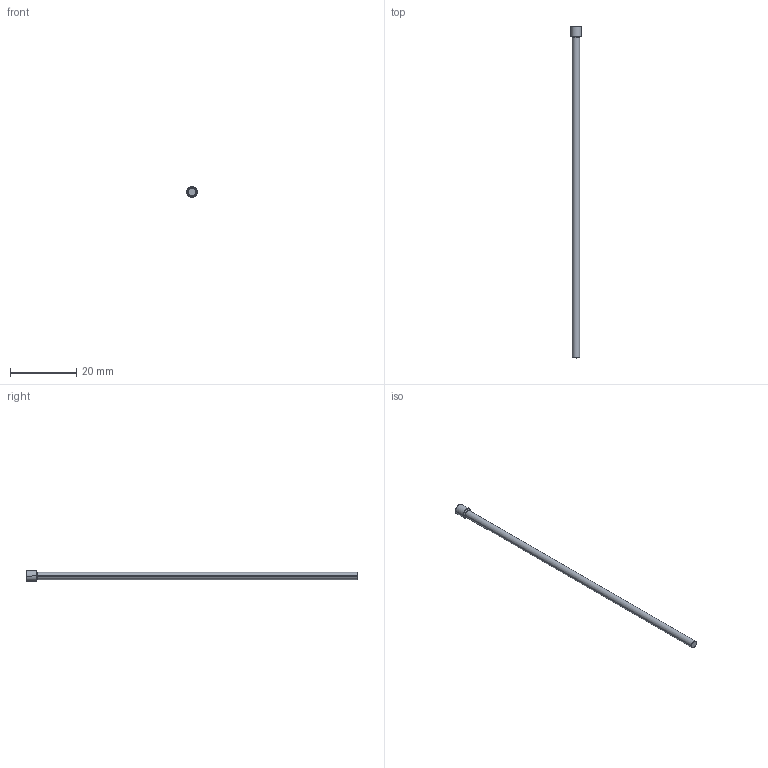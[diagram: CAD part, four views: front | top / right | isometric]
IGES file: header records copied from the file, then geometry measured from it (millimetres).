
Start section: SolidWorks IGES file using analytic representation for surfaces
Global section: file name: D:\Cleonir_arquivos\MT_15_07\Punções de Corte tipo E DIN 9861\PNE02,2100.igs; native system: SolidWorks 2013; preprocessor: SolidWorks 2013; author: Cleonir; date: 130731.214540; units: millimetre
Bounding box: 3.2 x 100.5 x 3.2 mm (x, y, z)
Surface area: 719.9 mm2 (no closed solid volume)
Topology: 0 solids, 0 shells, 287 faces, 2180 edges, 2180 vertices
Faces by surface type: bspline 275, revolution 12
